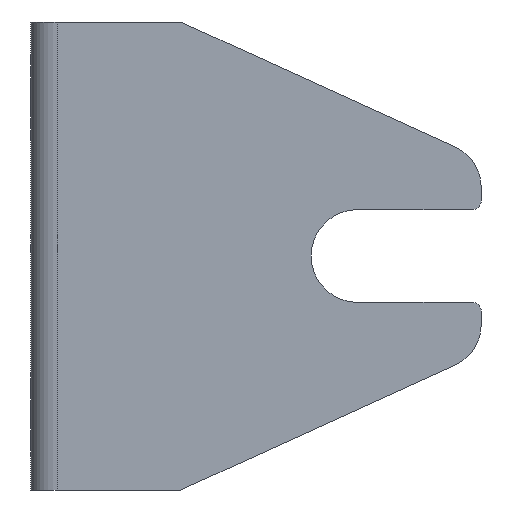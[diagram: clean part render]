
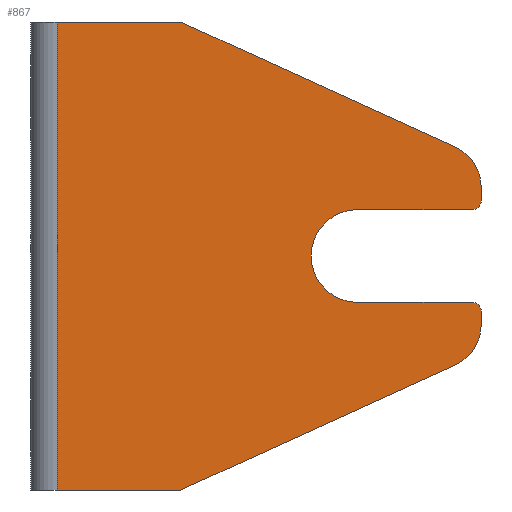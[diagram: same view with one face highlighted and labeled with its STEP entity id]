
A CAD part, front view. The second image highlights one B-rep face of the part: STEP entity #867.
In plain terms, the highlighted planar face has unit normal (0, -1, 0).
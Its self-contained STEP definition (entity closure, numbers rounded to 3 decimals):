
#329=CARTESIAN_POINT('',(-1.,0.,-5.25));
#330=VERTEX_POINT('',#329);
#331=CARTESIAN_POINT('',(0.0,0.0,-6.25));
#332=VERTEX_POINT('',#331);
#333=CARTESIAN_POINT('',(-1.,0.,-6.25));
#334=DIRECTION('',(0.,1.0,0.));
#335=DIRECTION('',(0.707,0.,0.707));
#336=AXIS2_PLACEMENT_3D('',#333,#334,#335);
#337=CIRCLE('',#336,1.0);
#338=EDGE_CURVE('',#330,#332,#337,.T.);
#487=CARTESIAN_POINT('',(0.0,0.0,-7.784));
#488=VERTEX_POINT('',#487);
#489=CARTESIAN_POINT('',(0.0,0.0,-7.784));
#490=DIRECTION('',(0.0,0.0,1.0));
#491=VECTOR('',#490,1.534);
#492=LINE('',#489,#491);
#493=EDGE_CURVE('',#488,#332,#492,.T.);
#512=CARTESIAN_POINT('',(-2.926,0.,-12.334));
#513=VERTEX_POINT('',#512);
#514=CARTESIAN_POINT('',(-5.0,0.,-7.784));
#515=DIRECTION('',(0.,1.0,0.));
#516=DIRECTION('',(0.841,0.,-0.541));
#517=AXIS2_PLACEMENT_3D('',#514,#515,#516);
#518=CIRCLE('',#517,5.);
#519=EDGE_CURVE('',#488,#513,#518,.T.);
#536=CARTESIAN_POINT('',(0.0,0.0,6.25));
#537=VERTEX_POINT('',#536);
#544=CARTESIAN_POINT('',(-1.,0.,5.25));
#545=VERTEX_POINT('',#544);
#546=CARTESIAN_POINT('',(-1.0,0.,6.25));
#547=DIRECTION('',(0.,1.0,0.));
#548=DIRECTION('',(0.707,0.,-0.707));
#549=AXIS2_PLACEMENT_3D('',#546,#547,#548);
#550=CIRCLE('',#549,1.0);
#551=EDGE_CURVE('',#537,#545,#550,.T.);
#569=CARTESIAN_POINT('',(0.0,0.0,7.784));
#570=VERTEX_POINT('',#569);
#577=CARTESIAN_POINT('',(0.0,0.0,6.25));
#578=DIRECTION('',(0.0,0.0,1.0));
#579=VECTOR('',#578,1.534);
#580=LINE('',#577,#579);
#581=EDGE_CURVE('',#537,#570,#580,.T.);
#591=CARTESIAN_POINT('',(-2.926,0.,12.334));
#592=VERTEX_POINT('',#591);
#593=CARTESIAN_POINT('',(-5.0,0.,7.784));
#594=DIRECTION('',(0.,1.0,0.));
#595=DIRECTION('',(0.841,0.,0.541));
#596=AXIS2_PLACEMENT_3D('',#593,#594,#595);
#597=CIRCLE('',#596,5.0);
#598=EDGE_CURVE('',#592,#570,#597,.T.);
#617=CARTESIAN_POINT('',(-34.0,0.,-26.5));
#618=VERTEX_POINT('',#617);
#619=CARTESIAN_POINT('',(-34.0,0.,-26.5));
#620=DIRECTION('',(0.91,0.,0.415));
#621=VECTOR('',#620,34.151);
#622=LINE('',#619,#621);
#623=EDGE_CURVE('',#618,#513,#622,.T.);
#642=CARTESIAN_POINT('',(-34.0,0.,26.5));
#643=VERTEX_POINT('',#642);
#650=CARTESIAN_POINT('',(-2.926,0.,12.334));
#651=DIRECTION('',(-0.91,0.,0.415));
#652=VECTOR('',#651,34.151);
#653=LINE('',#650,#652);
#654=EDGE_CURVE('',#592,#643,#653,.T.);
#666=CARTESIAN_POINT('',(-14.,0.,-5.25));
#667=VERTEX_POINT('',#666);
#674=CARTESIAN_POINT('',(-1.,0.,-5.25));
#675=DIRECTION('',(-1.0,0.0,0.0));
#676=VECTOR('',#675,13.);
#677=LINE('',#674,#676);
#678=EDGE_CURVE('',#330,#667,#677,.T.);
#689=CARTESIAN_POINT('',(-14.,0.,5.25));
#690=VERTEX_POINT('',#689);
#697=CARTESIAN_POINT('',(-14.,0.,0.0));
#698=DIRECTION('',(0.0,1.0,0.0));
#699=DIRECTION('',(0.0,0.0,1.0));
#700=AXIS2_PLACEMENT_3D('',#697,#698,#699);
#701=CIRCLE('',#700,5.25);
#702=EDGE_CURVE('',#667,#690,#701,.T.);
#714=CARTESIAN_POINT('',(-14.,0.,5.25));
#715=DIRECTION('',(1.0,0.0,0.0));
#716=VECTOR('',#715,13.);
#717=LINE('',#714,#716);
#718=EDGE_CURVE('',#690,#545,#717,.T.);
#731=CARTESIAN_POINT('',(-48.,0.,-26.5));
#732=VERTEX_POINT('',#731);
#733=CARTESIAN_POINT('',(-48.,0.,-26.5));
#734=DIRECTION('',(1.0,0.0,0.0));
#735=VECTOR('',#734,14.);
#736=LINE('',#733,#735);
#737=EDGE_CURVE('',#732,#618,#736,.T.);
#823=CARTESIAN_POINT('',(-48.,0.,26.5));
#824=VERTEX_POINT('',#823);
#832=CARTESIAN_POINT('',(-34.0,0.,26.5));
#833=DIRECTION('',(-1.0,0.0,0.0));
#834=VECTOR('',#833,14.);
#835=LINE('',#832,#834);
#836=EDGE_CURVE('',#643,#824,#835,.T.);
#841=CARTESIAN_POINT('',(-48.,0.,0.0));
#842=DIRECTION('',(0.0,-1.0,0.0));
#843=DIRECTION('',(0.0,0.0,-1.0));
#844=AXIS2_PLACEMENT_3D('',#841,#842,#843);
#845=PLANE('',#844);
#846=ORIENTED_EDGE('',*,*,#338,.F.);
#847=ORIENTED_EDGE('',*,*,#678,.T.);
#848=ORIENTED_EDGE('',*,*,#702,.T.);
#849=ORIENTED_EDGE('',*,*,#718,.T.);
#850=ORIENTED_EDGE('',*,*,#551,.F.);
#851=ORIENTED_EDGE('',*,*,#581,.T.);
#852=ORIENTED_EDGE('',*,*,#598,.F.);
#853=ORIENTED_EDGE('',*,*,#654,.T.);
#854=ORIENTED_EDGE('',*,*,#836,.T.);
#855=CARTESIAN_POINT('',(-48.,0.,26.5));
#856=DIRECTION('',(0.0,0.0,-1.0));
#857=VECTOR('',#856,53.);
#858=LINE('',#855,#857);
#859=EDGE_CURVE('',#824,#732,#858,.T.);
#860=ORIENTED_EDGE('',*,*,#859,.T.);
#861=ORIENTED_EDGE('',*,*,#737,.T.);
#862=ORIENTED_EDGE('',*,*,#623,.T.);
#863=ORIENTED_EDGE('',*,*,#519,.F.);
#864=ORIENTED_EDGE('',*,*,#493,.T.);
#865=EDGE_LOOP('',(#846,#847,#848,#849,#850,#851,#852,#853,#854,#860,#861,#862,#863,#864));
#866=FACE_OUTER_BOUND('',#865,.T.);
#867=ADVANCED_FACE('',(#866),#845,.T.);
